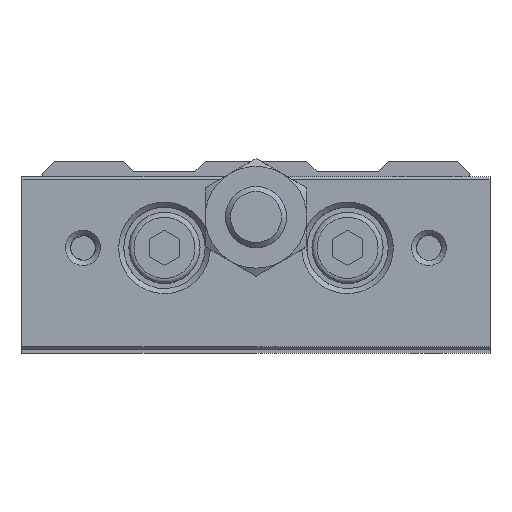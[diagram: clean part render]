
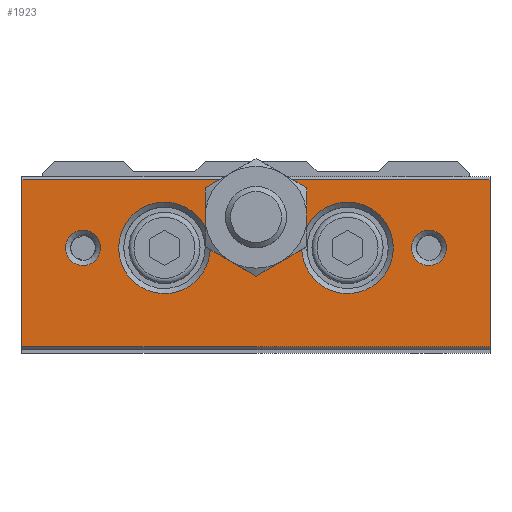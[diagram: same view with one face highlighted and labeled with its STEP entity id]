
A CAD part, top view. The second image highlights one B-rep face of the part: STEP entity #1923.
In plain terms, the highlighted planar face has unit normal (0, 0, 1).
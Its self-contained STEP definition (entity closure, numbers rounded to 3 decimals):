
#1769=CARTESIAN_POINT('',(-15.271,0.,132.));
#1770=VERTEX_POINT('',#1769);
#1771=CARTESIAN_POINT('',(-17.0,0.,132.));
#1772=DIRECTION('',(0.0,0.0,1.0));
#1773=DIRECTION('',(-1.0,0.0,0.0));
#1774=AXIS2_PLACEMENT_3D('',#1771,#1772,#1773);
#1775=CIRCLE('',#1774,1.73);
#1776=EDGE_CURVE('',#1770,#1770,#1775,.T.);
#1781=CARTESIAN_POINT('',(0.0,-10.,132.));
#1782=DIRECTION('',(0.0,0.0,1.0));
#1783=DIRECTION('',(1.0,0.0,0.0));
#1784=AXIS2_PLACEMENT_3D('',#1781,#1782,#1783);
#1785=PLANE('',#1784);
#1786=CARTESIAN_POINT('',(-4.816,1.658,132.));
#1787=VERTEX_POINT('',#1786);
#1788=CARTESIAN_POINT('',(-4.659,1.184,132.));
#1789=VERTEX_POINT('',#1788);
#1790=CARTESIAN_POINT('',(-9.,0.,132.));
#1791=DIRECTION('',(0.0,0.0,1.0));
#1792=DIRECTION('',(-1.0,0.0,0.0));
#1793=AXIS2_PLACEMENT_3D('',#1790,#1791,#1792);
#1794=CIRCLE('',#1793,4.5);
#1795=EDGE_CURVE('',#1787,#1789,#1794,.T.);
#1796=ORIENTED_EDGE('',*,*,#1795,.F.);
#1797=CARTESIAN_POINT('',(-5.0,3.,132.));
#1798=VERTEX_POINT('',#1797);
#1799=CARTESIAN_POINT('',(0.0,3.,132.));
#1800=DIRECTION('',(0.0,0.0,1.0));
#1801=DIRECTION('',(0.0,1.0,0.0));
#1802=AXIS2_PLACEMENT_3D('',#1799,#1800,#1801);
#1803=CIRCLE('',#1802,5.0);
#1804=EDGE_CURVE('',#1798,#1787,#1803,.T.);
#1805=ORIENTED_EDGE('',*,*,#1804,.F.);
#1806=CARTESIAN_POINT('',(-3.363,6.7,132.));
#1807=VERTEX_POINT('',#1806);
#1808=CARTESIAN_POINT('',(0.0,3.,132.));
#1809=DIRECTION('',(0.0,0.0,1.0));
#1810=DIRECTION('',(0.0,1.0,0.0));
#1811=AXIS2_PLACEMENT_3D('',#1808,#1809,#1810);
#1812=CIRCLE('',#1811,5.0);
#1813=EDGE_CURVE('',#1807,#1798,#1812,.T.);
#1814=ORIENTED_EDGE('',*,*,#1813,.F.);
#1815=CARTESIAN_POINT('',(-23.,6.7,132.));
#1816=VERTEX_POINT('',#1815);
#1817=CARTESIAN_POINT('',(-23.,6.7,132.));
#1818=DIRECTION('',(1.0,0.0,0.0));
#1819=VECTOR('',#1818,19.637);
#1820=LINE('',#1817,#1819);
#1821=EDGE_CURVE('',#1816,#1807,#1820,.T.);
#1822=ORIENTED_EDGE('',*,*,#1821,.F.);
#1823=CARTESIAN_POINT('',(-23.,-9.7,132.));
#1824=VERTEX_POINT('',#1823);
#1825=CARTESIAN_POINT('',(-23.,6.7,132.));
#1826=DIRECTION('',(0.0,-1.0,0.0));
#1827=VECTOR('',#1826,16.4);
#1828=LINE('',#1825,#1827);
#1829=EDGE_CURVE('',#1816,#1824,#1828,.T.);
#1830=ORIENTED_EDGE('',*,*,#1829,.T.);
#1831=CARTESIAN_POINT('',(23.,-9.7,132.));
#1832=VERTEX_POINT('',#1831);
#1833=CARTESIAN_POINT('',(23.,-9.7,132.));
#1834=DIRECTION('',(-1.0,0.0,0.0));
#1835=VECTOR('',#1834,46.);
#1836=LINE('',#1833,#1835);
#1837=EDGE_CURVE('',#1832,#1824,#1836,.T.);
#1838=ORIENTED_EDGE('',*,*,#1837,.F.);
#1839=CARTESIAN_POINT('',(23.,6.7,132.));
#1840=VERTEX_POINT('',#1839);
#1841=CARTESIAN_POINT('',(23.,-9.7,132.));
#1842=DIRECTION('',(0.0,1.0,0.0));
#1843=VECTOR('',#1842,16.4);
#1844=LINE('',#1841,#1843);
#1845=EDGE_CURVE('',#1832,#1840,#1844,.T.);
#1846=ORIENTED_EDGE('',*,*,#1845,.T.);
#1847=CARTESIAN_POINT('',(3.363,6.7,132.));
#1848=VERTEX_POINT('',#1847);
#1849=CARTESIAN_POINT('',(3.363,6.7,132.));
#1850=DIRECTION('',(1.0,0.0,0.0));
#1851=VECTOR('',#1850,19.637);
#1852=LINE('',#1849,#1851);
#1853=EDGE_CURVE('',#1848,#1840,#1852,.T.);
#1854=ORIENTED_EDGE('',*,*,#1853,.F.);
#1855=CARTESIAN_POINT('',(5.,3.,132.));
#1856=VERTEX_POINT('',#1855);
#1857=CARTESIAN_POINT('',(0.0,3.,132.));
#1858=DIRECTION('',(0.0,0.0,1.0));
#1859=DIRECTION('',(0.0,1.0,0.0));
#1860=AXIS2_PLACEMENT_3D('',#1857,#1858,#1859);
#1861=CIRCLE('',#1860,5.0);
#1862=EDGE_CURVE('',#1856,#1848,#1861,.T.);
#1863=ORIENTED_EDGE('',*,*,#1862,.F.);
#1864=CARTESIAN_POINT('',(4.816,1.658,132.));
#1865=VERTEX_POINT('',#1864);
#1866=CARTESIAN_POINT('',(0.0,3.,132.));
#1867=DIRECTION('',(0.0,0.0,1.0));
#1868=DIRECTION('',(0.0,1.0,0.0));
#1869=AXIS2_PLACEMENT_3D('',#1866,#1867,#1868);
#1870=CIRCLE('',#1869,5.0);
#1871=EDGE_CURVE('',#1865,#1856,#1870,.T.);
#1872=ORIENTED_EDGE('',*,*,#1871,.F.);
#1873=CARTESIAN_POINT('',(4.659,1.184,132.));
#1874=VERTEX_POINT('',#1873);
#1875=CARTESIAN_POINT('',(9.0,0.,132.));
#1876=DIRECTION('',(0.0,0.0,1.0));
#1877=DIRECTION('',(-1.0,0.0,0.0));
#1878=AXIS2_PLACEMENT_3D('',#1875,#1876,#1877);
#1879=CIRCLE('',#1878,4.5);
#1880=EDGE_CURVE('',#1874,#1865,#1879,.T.);
#1881=ORIENTED_EDGE('',*,*,#1880,.F.);
#1882=CARTESIAN_POINT('',(2.5,-1.33,132.));
#1883=VERTEX_POINT('',#1882);
#1884=CARTESIAN_POINT('',(0.0,3.,132.));
#1885=DIRECTION('',(0.0,0.0,1.0));
#1886=DIRECTION('',(0.0,1.0,0.0));
#1887=AXIS2_PLACEMENT_3D('',#1884,#1885,#1886);
#1888=CIRCLE('',#1887,5.0);
#1889=EDGE_CURVE('',#1883,#1874,#1888,.T.);
#1890=ORIENTED_EDGE('',*,*,#1889,.F.);
#1891=CARTESIAN_POINT('',(-2.5,-1.33,132.));
#1892=VERTEX_POINT('',#1891);
#1893=CARTESIAN_POINT('',(0.0,3.,132.));
#1894=DIRECTION('',(0.0,0.0,1.0));
#1895=DIRECTION('',(0.0,1.0,0.0));
#1896=AXIS2_PLACEMENT_3D('',#1893,#1894,#1895);
#1897=CIRCLE('',#1896,5.0);
#1898=EDGE_CURVE('',#1892,#1883,#1897,.T.);
#1899=ORIENTED_EDGE('',*,*,#1898,.F.);
#1900=CARTESIAN_POINT('',(0.0,3.,132.));
#1901=DIRECTION('',(0.0,0.0,1.0));
#1902=DIRECTION('',(0.0,1.0,0.0));
#1903=AXIS2_PLACEMENT_3D('',#1900,#1901,#1902);
#1904=CIRCLE('',#1903,5.0);
#1905=EDGE_CURVE('',#1789,#1892,#1904,.T.);
#1906=ORIENTED_EDGE('',*,*,#1905,.F.);
#1907=EDGE_LOOP('',(#1796,#1805,#1814,#1822,#1830,#1838,#1846,#1854,#1863,#1872,#1881,#1890,#1899,#1906));
#1908=FACE_OUTER_BOUND('',#1907,.T.);
#1909=CARTESIAN_POINT('',(18.729,0.,132.));
#1910=VERTEX_POINT('',#1909);
#1911=CARTESIAN_POINT('',(17.,0.,132.));
#1912=DIRECTION('',(0.0,0.0,1.0));
#1913=DIRECTION('',(-1.0,0.0,0.0));
#1914=AXIS2_PLACEMENT_3D('',#1911,#1912,#1913);
#1915=CIRCLE('',#1914,1.73);
#1916=EDGE_CURVE('',#1910,#1910,#1915,.T.);
#1917=ORIENTED_EDGE('',*,*,#1916,.F.);
#1918=EDGE_LOOP('',(#1917));
#1919=FACE_BOUND('',#1918,.T.);
#1920=ORIENTED_EDGE('',*,*,#1776,.F.);
#1921=EDGE_LOOP('',(#1920));
#1922=FACE_BOUND('',#1921,.T.);
#1923=ADVANCED_FACE('',(#1908,#1919,#1922),#1785,.T.);
